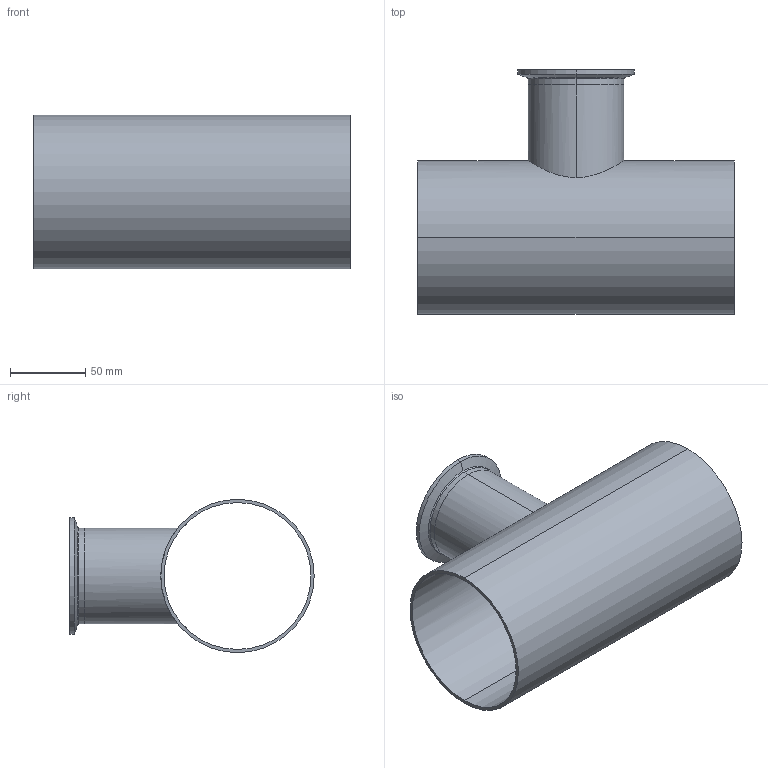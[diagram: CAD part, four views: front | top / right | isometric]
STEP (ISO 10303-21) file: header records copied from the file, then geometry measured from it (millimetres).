
FILE_DESCRIPTION (( 'STEP AP214' ), '1' );
FILE_NAME ('TE7RWWC6L4.0x2.5-...STEP', '2016-05-23T09:37:06', ( 'eran' ), ( '' ), 'SwSTEP 2.0', 'SolidWorks 2016', '' );
FILE_SCHEMA (( 'AUTOMOTIVE_DESIGN' ));
Length unit declared in the file: millimetre
Products named in the file (1): TE7RWWC6L4.0x2.5-..
Bounding box: 209.6 x 161.9 x 101.6 mm (x, y, z)
Volume: 158840 mm3; surface area: 155658.2 mm2
Topology: 2 solids, 2 shells, 36 faces, 88 edges, 58 vertices
Faces by surface type: cylinder 14, bspline 10, plane 6, cone 6
Entity records: 2066 total; most frequent: CARTESIAN_POINT 1161, DIRECTION 190, ORIENTED_EDGE 176, EDGE_CURVE 88, AXIS2_PLACEMENT_3D 85, VERTEX_POINT 58, CIRCLE 58, EDGE_LOOP 44
